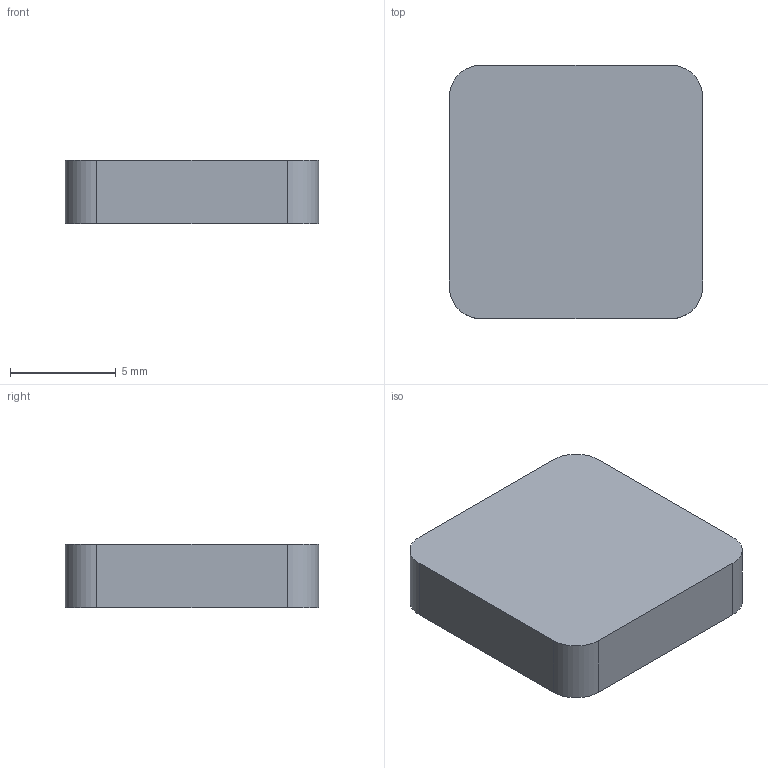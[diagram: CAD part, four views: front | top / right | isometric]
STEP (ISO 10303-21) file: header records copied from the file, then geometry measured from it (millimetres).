
FILE_DESCRIPTION(('Open CASCADE Model'),'2;1');
FILE_NAME('Open CASCADE Shape Model','2026-07-20T15:40:33',('Author'),( 'Open CASCADE'),'Open CASCADE STEP processor 7.7','Open CASCADE 7.7' ,'Unknown');
FILE_SCHEMA(('AUTOMOTIVE_DESIGN { 1 0 10303 214 1 1 1 1 }'));
Length unit declared in the file: millimetre
Products named in the file (1): Open CASCADE STEP translator 7.7 3
Bounding box: 12 x 12 x 3 mm (x, y, z)
Volume: 426.2 mm3; surface area: 420.4 mm2
Topology: 1 solids, 1 shells, 10 faces, 24 edges, 16 vertices
Faces by surface type: plane 6, cylinder 4
Entity records: 630 total; most frequent: CARTESIAN_POINT 123, DIRECTION 98, LINE 56, VECTOR 56, ORIENTED_EDGE 48, PCURVE 48, DEFINITIONAL_REPRESENTATION 48, EDGE_CURVE 24
